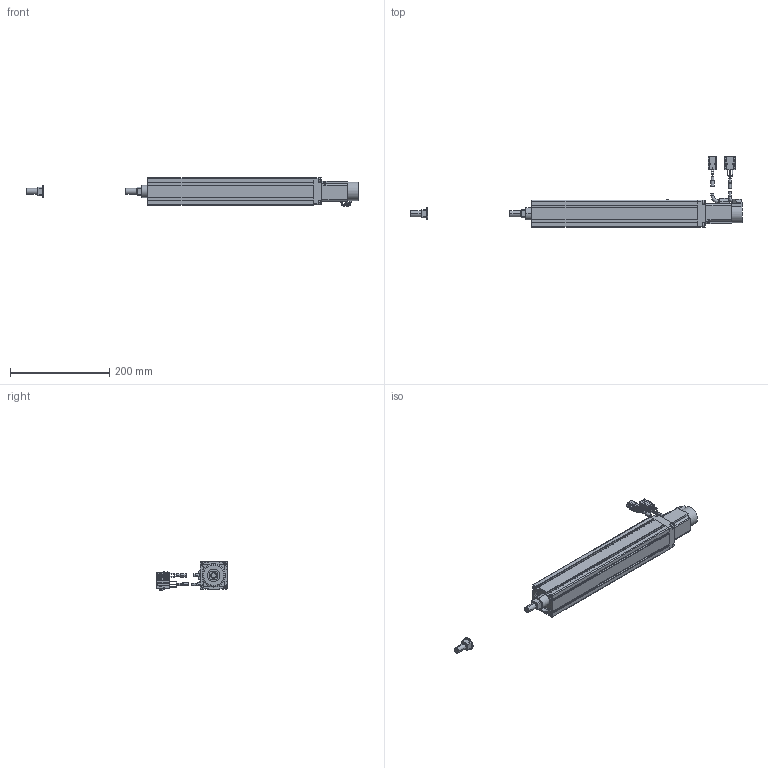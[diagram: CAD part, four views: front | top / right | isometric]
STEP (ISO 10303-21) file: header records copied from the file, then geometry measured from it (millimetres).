
FILE_DESCRIPTION((''),'2;1');
FILE_NAME('BET5E-ST-C_N-20_IGS_PRT','2017-06-18T',(' '),(''),'PRO/ENGINEER BY PARAMETRIC TECHNOLOGY CORPORATION, 2015030','PRO/ENGINEER BY PARAMETRIC TECHNOLOGY CORPORATION, 2015030','');
FILE_SCHEMA(('CONFIG_CONTROL_DESIGN'));
Length unit declared in the file: millimetre
Products named in the file (1): BET5E-ST-C_N-20_IGS_PRT
Bounding box: 668.5 x 142.55 x 57.56 mm (x, y, z)
Volume: 836703.3 mm3; surface area: 235619.4 mm2
Topology: 7 solids, 33 shells, 893 faces, 2310 edges, 1492 vertices
Faces by surface type: plane 556, cylinder 245, torus 66, cone 22, sphere 4
Entity records: 27340 total; most frequent: CARTESIAN_POINT 4946, DIRECTION 4706, ORIENTED_EDGE 4548, EDGE_CURVE 2302, VECTOR 1616, LINE 1616, AXIS2_PLACEMENT_3D 1545, VERTEX_POINT 1492
